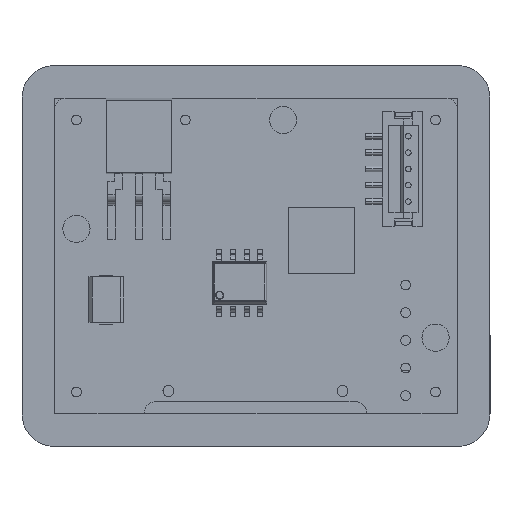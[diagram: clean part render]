
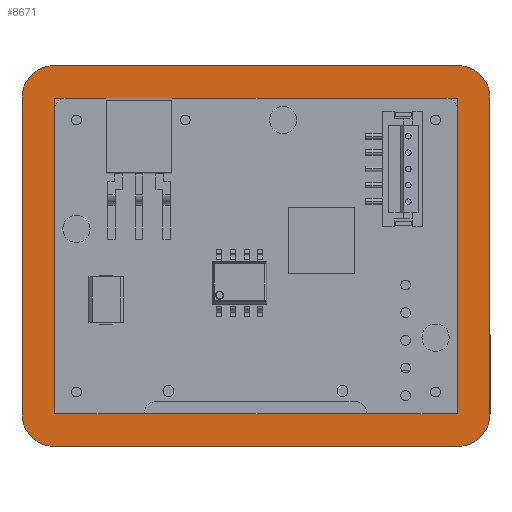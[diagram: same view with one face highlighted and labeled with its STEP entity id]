
A CAD part, front view. The second image highlights one B-rep face of the part: STEP entity #8671.
In plain terms, the highlighted planar face has unit normal (0, -1, 0) as drawn and (0, 0, -1) by its records, which use the part's own axes.
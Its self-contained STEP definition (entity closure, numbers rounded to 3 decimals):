
#268 = VERTEX_POINT ( 'NONE', #3052 ) ;
#310 = CARTESIAN_POINT ( 'NONE',  ( -18.5, -17.5, 0. ) ) ;
#468 = VECTOR ( 'NONE', #15983, 1000. ) ;
#1314 = ORIENTED_EDGE ( 'NONE', *, *, #15597, .F. ) ;
#1428 = DIRECTION ( 'NONE',  ( 1., 0., 0. ) ) ;
#1553 = DIRECTION ( 'NONE',  ( 1., 0., 0. ) ) ;
#1630 = CARTESIAN_POINT ( 'NONE',  ( 0., 17.5, 0. ) ) ;
#2222 = AXIS2_PLACEMENT_3D ( 'NONE', #16460, #18250, #1428 ) ;
#2249 = DIRECTION ( 'NONE',  ( 1., 0., 0. ) ) ;
#2759 = CARTESIAN_POINT ( 'NONE',  ( 0., 14.5, 0. ) ) ;
#2951 = VECTOR ( 'NONE', #16365, 1000. ) ;
#3052 = CARTESIAN_POINT ( 'NONE',  ( -18.5, 14.5, 0. ) ) ;
#3095 = DIRECTION ( 'NONE',  ( 0., -1., 0. ) ) ;
#3282 = VECTOR ( 'NONE', #4243, 1000. ) ;
#3365 = ORIENTED_EDGE ( 'NONE', *, *, #14247, .F. ) ;
#3429 = ORIENTED_EDGE ( 'NONE', *, *, #19901, .T. ) ;
#3698 = VERTEX_POINT ( 'NONE', #310 ) ;
#3915 = VERTEX_POINT ( 'NONE', #13895 ) ;
#4243 = DIRECTION ( 'NONE',  ( 1., 0., 0. ) ) ;
#4655 = ORIENTED_EDGE ( 'NONE', *, *, #14336, .F. ) ;
#4729 = ORIENTED_EDGE ( 'NONE', *, *, #5483, .F. ) ;
#5064 = CIRCLE ( 'NONE', #2222, 3. ) ;
#5087 = EDGE_CURVE ( 'NONE', #15297, #15800, #11417, .T. ) ;
#5180 = DIRECTION ( 'NONE',  ( 0., 0., 1. ) ) ;
#5202 = CIRCLE ( 'NONE', #7373, 3. ) ;
#5380 = CARTESIAN_POINT ( 'NONE',  ( -21.5, 14.5, 0. ) ) ;
#5443 = LINE ( 'NONE', #12260, #468 ) ;
#5483 = EDGE_CURVE ( 'NONE', #9400, #6941, #5064, .T. ) ;
#5885 = VERTEX_POINT ( 'NONE', #8856 ) ;
#5992 = LINE ( 'NONE', #17358, #6542 ) ;
#6444 = DIRECTION ( 'NONE',  ( 0., 0., 1. ) ) ;
#6542 = VECTOR ( 'NONE', #2249, 1000. ) ;
#6941 = VERTEX_POINT ( 'NONE', #5380 ) ;
#7373 = AXIS2_PLACEMENT_3D ( 'NONE', #13828, #11909, #15482 ) ;
#7398 = VERTEX_POINT ( 'NONE', #20136 ) ;
#7649 = CIRCLE ( 'NONE', #14706, 3. ) ;
#7662 = VERTEX_POINT ( 'NONE', #17440 ) ;
#7961 = DIRECTION ( 'NONE',  ( 1., 0., 0. ) ) ;
#8112 = DIRECTION ( 'NONE',  ( 1., 0., 0. ) ) ;
#8138 = EDGE_CURVE ( 'NONE', #3698, #19722, #5992, .T. ) ;
#8178 = EDGE_LOOP ( 'NONE', ( #3429, #12065, #16143, #15118, #12770, #4655, #16779, #4729 ) ) ;
#8594 = CARTESIAN_POINT ( 'NONE',  ( -18.5, -14.5, 0. ) ) ;
#8671 = ADVANCED_FACE ( 'NONE', ( #10172, #13624 ), #12022, .F. ) ;
#8856 = CARTESIAN_POINT ( 'NONE',  ( 18.5, 17.5, 0. ) ) ;
#9301 = VECTOR ( 'NONE', #18490, 1000. ) ;
#9400 = VERTEX_POINT ( 'NONE', #18828 ) ;
#9408 = AXIS2_PLACEMENT_3D ( 'NONE', #12817, #6444, #8112 ) ;
#9862 = CIRCLE ( 'NONE', #9408, 3. ) ;
#10119 = LINE ( 'NONE', #15239, #9301 ) ;
#10172 = FACE_BOUND ( 'NONE', #14304, .T. ) ;
#10380 = CARTESIAN_POINT ( 'NONE',  ( 0., 0., 0. ) ) ;
#10457 = VECTOR ( 'NONE', #3095, 1000. ) ;
#11298 = EDGE_CURVE ( 'NONE', #7662, #3915, #17798, .T. ) ;
#11379 = EDGE_CURVE ( 'NONE', #5885, #7662, #5202, .T. ) ;
#11417 = LINE ( 'NONE', #14343, #3282 ) ;
#11468 = CARTESIAN_POINT ( 'NONE',  ( 18.5, 0., 0. ) ) ;
#11475 = CARTESIAN_POINT ( 'NONE',  ( 21.5, 0., 0. ) ) ;
#11488 = LINE ( 'NONE', #2759, #13605 ) ;
#11881 = VECTOR ( 'NONE', #7961, 1000. ) ;
#11896 = VERTEX_POINT ( 'NONE', #21636 ) ;
#11909 = DIRECTION ( 'NONE',  ( 0., 0., -1. ) ) ;
#12022 = PLANE ( 'NONE',  #14457 ) ;
#12065 = ORIENTED_EDGE ( 'NONE', *, *, #11379, .T. ) ;
#12260 = CARTESIAN_POINT ( 'NONE',  ( -21.5, 0., 0. ) ) ;
#12770 = ORIENTED_EDGE ( 'NONE', *, *, #8138, .F. ) ;
#12817 = CARTESIAN_POINT ( 'NONE',  ( -18.5, -14.5, 0. ) ) ;
#13605 = VECTOR ( 'NONE', #19498, 1000. ) ;
#13624 = FACE_OUTER_BOUND ( 'NONE', #8178, .T. ) ;
#13828 = CARTESIAN_POINT ( 'NONE',  ( 18.5, 14.5, 0. ) ) ;
#13895 = CARTESIAN_POINT ( 'NONE',  ( 21.5, -14.5, 0. ) ) ;
#14247 = EDGE_CURVE ( 'NONE', #268, #11896, #11488, .T. ) ;
#14304 = EDGE_LOOP ( 'NONE', ( #3365, #18354, #18812, #1314 ) ) ;
#14336 = EDGE_CURVE ( 'NONE', #7398, #3698, #9862, .T. ) ;
#14343 = CARTESIAN_POINT ( 'NONE',  ( 0., -14.5, 0. ) ) ;
#14457 = AXIS2_PLACEMENT_3D ( 'NONE', #10380, #5180, #15251 ) ;
#14706 = AXIS2_PLACEMENT_3D ( 'NONE', #18526, #20195, #1553 ) ;
#15067 = CARTESIAN_POINT ( 'NONE',  ( 18.5, -14.5, 0. ) ) ;
#15118 = ORIENTED_EDGE ( 'NONE', *, *, #15774, .F. ) ;
#15239 = CARTESIAN_POINT ( 'NONE',  ( -18.5, 0., 0. ) ) ;
#15251 = DIRECTION ( 'NONE',  ( 1., 0., 0. ) ) ;
#15297 = VERTEX_POINT ( 'NONE', #8594 ) ;
#15482 = DIRECTION ( 'NONE',  ( 1., 0., 0. ) ) ;
#15597 = EDGE_CURVE ( 'NONE', #11896, #15800, #17616, .T. ) ;
#15774 = EDGE_CURVE ( 'NONE', #19722, #3915, #7649, .T. ) ;
#15800 = VERTEX_POINT ( 'NONE', #15067 ) ;
#15983 = DIRECTION ( 'NONE',  ( 0., -1., 0. ) ) ;
#16143 = ORIENTED_EDGE ( 'NONE', *, *, #11298, .T. ) ;
#16326 = LINE ( 'NONE', #1630, #11881 ) ;
#16365 = DIRECTION ( 'NONE',  ( 0., -1., 0. ) ) ;
#16460 = CARTESIAN_POINT ( 'NONE',  ( -18.5, 14.5, 0. ) ) ;
#16779 = ORIENTED_EDGE ( 'NONE', *, *, #20591, .F. ) ;
#17358 = CARTESIAN_POINT ( 'NONE',  ( 0., -17.5, 0. ) ) ;
#17440 = CARTESIAN_POINT ( 'NONE',  ( 21.5, 14.5, 0. ) ) ;
#17616 = LINE ( 'NONE', #11468, #2951 ) ;
#17798 = LINE ( 'NONE', #11475, #10457 ) ;
#18250 = DIRECTION ( 'NONE',  ( 0., 0., 1. ) ) ;
#18354 = ORIENTED_EDGE ( 'NONE', *, *, #21553, .T. ) ;
#18490 = DIRECTION ( 'NONE',  ( 0., -1., 0. ) ) ;
#18526 = CARTESIAN_POINT ( 'NONE',  ( 18.5, -14.5, 0. ) ) ;
#18812 = ORIENTED_EDGE ( 'NONE', *, *, #5087, .T. ) ;
#18828 = CARTESIAN_POINT ( 'NONE',  ( -18.5, 17.5, 0. ) ) ;
#19498 = DIRECTION ( 'NONE',  ( 1., 0., 0. ) ) ;
#19722 = VERTEX_POINT ( 'NONE', #20508 ) ;
#19901 = EDGE_CURVE ( 'NONE', #9400, #5885, #16326, .T. ) ;
#20136 = CARTESIAN_POINT ( 'NONE',  ( -21.5, -14.5, 0. ) ) ;
#20195 = DIRECTION ( 'NONE',  ( 0., 0., 1. ) ) ;
#20508 = CARTESIAN_POINT ( 'NONE',  ( 18.5, -17.5, 0. ) ) ;
#20591 = EDGE_CURVE ( 'NONE', #6941, #7398, #5443, .T. ) ;
#21553 = EDGE_CURVE ( 'NONE', #268, #15297, #10119, .T. ) ;
#21636 = CARTESIAN_POINT ( 'NONE',  ( 18.5, 14.5, 0. ) ) ;
